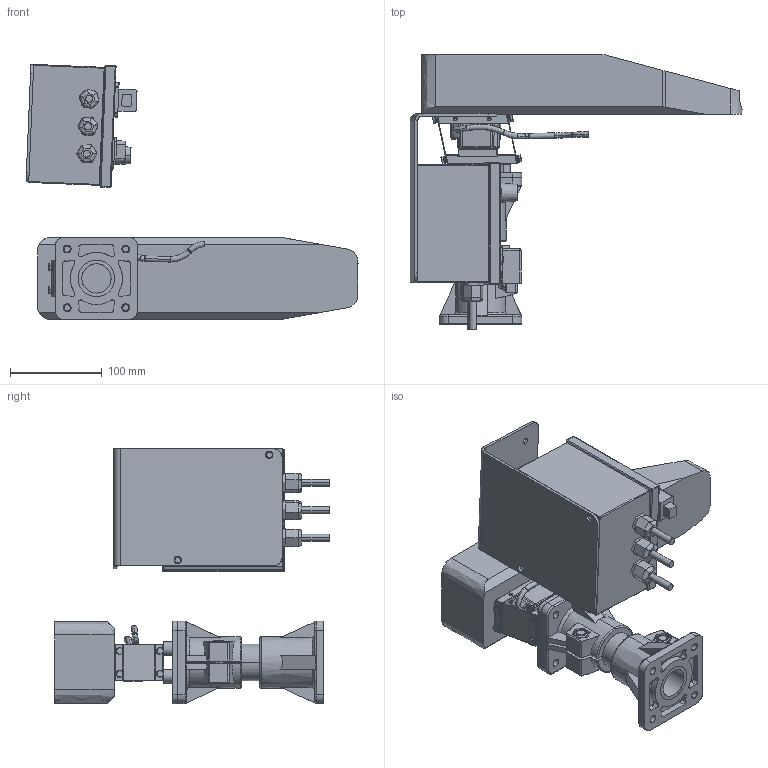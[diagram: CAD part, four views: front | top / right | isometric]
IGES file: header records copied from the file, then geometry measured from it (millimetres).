
Start section: SolidWorks IGES file using analytic representation for surfaces
Global section: file name: C:\Users\federicol\Desktop\GM000682.IGS; native system: SolidWorks 2023; preprocessor: SolidWorks 2023; author: federicol; date: 250610.151446; units: millimetre
Bounding box: 362.58 x 299.91 x 278.71 mm (x, y, z)
Surface area: 507792.6 mm2 (no closed solid volume)
Topology: 0 solids, 0 shells, 1589 faces, 19305 edges, 19250 vertices
Faces by surface type: revolution 889, bspline 700
